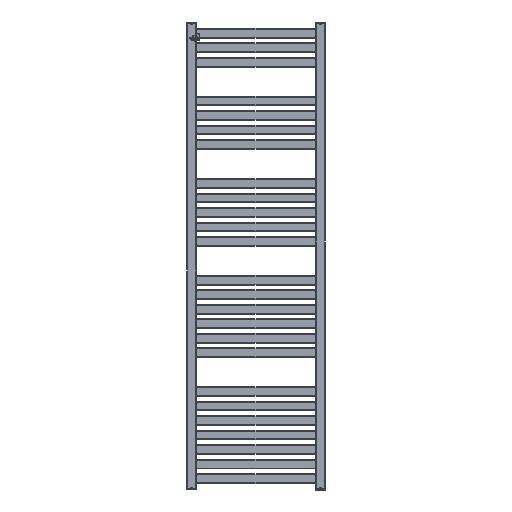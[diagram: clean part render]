
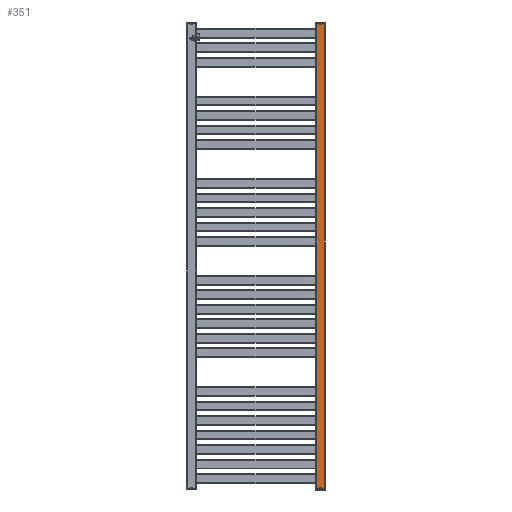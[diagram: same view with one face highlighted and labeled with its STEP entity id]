
A CAD part, front view. The second image highlights one B-rep face of the part: STEP entity #351.
In plain terms, the highlighted planar face has unit normal (0, -1, 0) as drawn and (-1, 0, 0) by its records, which use the part's own axes.
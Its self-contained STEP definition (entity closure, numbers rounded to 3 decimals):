
#351 = ADVANCED_FACE( '', ( #951 ), #952, .T. );
#951 = FACE_OUTER_BOUND( '', #1888, .T. );
#952 = PLANE( '', #1889 );
#1888 = EDGE_LOOP( '', ( #2918, #2919, #2920, #2921 ) );
#1889 = AXIS2_PLACEMENT_3D( '', #2922, #2923, #2924 );
#2918 = ORIENTED_EDGE( '', *, *, #5405, .T. );
#2919 = ORIENTED_EDGE( '', *, *, #5406, .T. );
#2920 = ORIENTED_EDGE( '', *, *, #5407, .F. );
#2921 = ORIENTED_EDGE( '', *, *, #5371, .T. );
#2922 = CARTESIAN_POINT( '', ( -15., 1446., 15. ) );
#2923 = DIRECTION( '', ( -1., 0., 0. ) );
#2924 = DIRECTION( '', ( 0., 0., 1. ) );
#5371 = EDGE_CURVE( '', #6407, #6404, #6408, .F. );
#5405 = EDGE_CURVE( '', #6404, #6467, #6468, .T. );
#5406 = EDGE_CURVE( '', #6467, #6469, #6470, .T. );
#5407 = EDGE_CURVE( '', #6407, #6469, #6471, .T. );
#6404 = VERTEX_POINT( '', #7930 );
#6407 = VERTEX_POINT( '', #7933 );
#6408 = LINE( '', #7934, #7935 );
#6467 = VERTEX_POINT( '', #8011 );
#6468 = LINE( '', #8012, #8013 );
#6469 = VERTEX_POINT( '', #8014 );
#6470 = LINE( '', #8015, #8016 );
#6471 = LINE( '', #8017, #8018 );
#7930 = CARTESIAN_POINT( '', ( -15., 1446., 12. ) );
#7933 = CARTESIAN_POINT( '', ( -15., 0., 12. ) );
#7934 = CARTESIAN_POINT( '', ( -15., 1446., 12. ) );
#7935 = VECTOR( '', #9895, 1000. );
#8011 = CARTESIAN_POINT( '', ( -15., 1446., -12. ) );
#8012 = CARTESIAN_POINT( '', ( -15., 1446., 15. ) );
#8013 = VECTOR( '', #9940, 1000. );
#8014 = CARTESIAN_POINT( '', ( -15., 0., -12. ) );
#8015 = CARTESIAN_POINT( '', ( -15., 1446., -12. ) );
#8016 = VECTOR( '', #9941, 1000. );
#8017 = CARTESIAN_POINT( '', ( -15., 0., 15. ) );
#8018 = VECTOR( '', #9942, 1000. );
#9895 = DIRECTION( '', ( 0., -1., 0. ) );
#9940 = DIRECTION( '', ( 0., 0., -1. ) );
#9941 = DIRECTION( '', ( 0., -1., 0. ) );
#9942 = DIRECTION( '', ( 0., 0., -1. ) );
